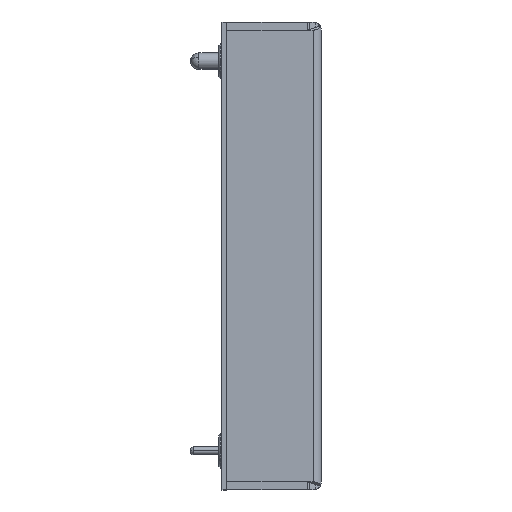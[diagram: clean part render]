
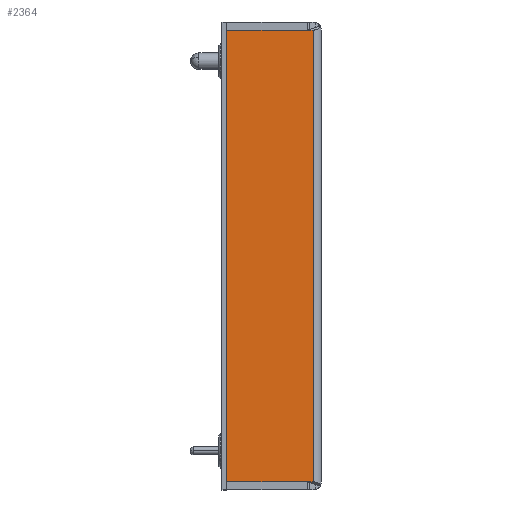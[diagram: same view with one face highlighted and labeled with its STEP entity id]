
A CAD part, left-side view. The second image highlights one B-rep face of the part: STEP entity #2364.
In plain terms, the highlighted planar face has unit normal (-1, 0, 0).
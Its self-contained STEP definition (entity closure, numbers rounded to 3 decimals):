
#926 = CARTESIAN_POINT ( 'NONE',  ( -30.5, 0.717, 27.95 ) ) ;
#1852 = ORIENTED_EDGE ( 'NONE', *, *, #4431, .F. ) ;
#2364 = ADVANCED_FACE ( 'NONE', ( #2541 ), #14672, .F. ) ;
#2541 = FACE_OUTER_BOUND ( 'NONE', #5390, .T. ) ;
#2573 = CARTESIAN_POINT ( 'NONE',  ( -30.5, 10.7, 27.95 ) ) ;
#4431 = EDGE_CURVE ( 'NONE', #10794, #35142, #5760, .T. ) ;
#4697 = EDGE_CURVE ( 'NONE', #10794, #30396, #22585, .T. ) ;
#5390 = EDGE_LOOP ( 'NONE', ( #7608, #13164, #34348, #6994, #1852, #13317 ) ) ;
#5409 = EDGE_CURVE ( 'NONE', #14761, #29683, #31650, .T. ) ;
#5760 = LINE ( 'NONE', #35374, #33408 ) ;
#6464 = DIRECTION ( 'NONE',  ( 1., 0., 0. ) ) ;
#6994 = ORIENTED_EDGE ( 'NONE', *, *, #26695, .F. ) ;
#7608 = ORIENTED_EDGE ( 'NONE', *, *, #19969, .T. ) ;
#8130 = DIRECTION ( 'NONE',  ( 0., -1., 0. ) ) ;
#8462 = CARTESIAN_POINT ( 'NONE',  ( -30.5, 0., 27.95 ) ) ;
#8769 = VECTOR ( 'NONE', #13278, 1000. ) ;
#9093 = VECTOR ( 'NONE', #23723, 1000. ) ;
#10665 = VECTOR ( 'NONE', #8130, 1000. ) ;
#10794 = VERTEX_POINT ( 'NONE', #13163 ) ;
#12152 = VECTOR ( 'NONE', #31947, 1000. ) ;
#13163 = CARTESIAN_POINT ( 'NONE',  ( -30.5, 10.7, 27.95 ) ) ;
#13164 = ORIENTED_EDGE ( 'NONE', *, *, #30294, .T. ) ;
#13278 = DIRECTION ( 'NONE',  ( 0., 0., -1. ) ) ;
#13317 = ORIENTED_EDGE ( 'NONE', *, *, #4697, .T. ) ;
#14672 = PLANE ( 'NONE',  #28438 ) ;
#14761 = VERTEX_POINT ( 'NONE', #8462 ) ;
#16069 = DIRECTION ( 'NONE',  ( 0., -1., 0. ) ) ;
#16481 = DIRECTION ( 'NONE',  ( 0., 0., -1. ) ) ;
#17970 = LINE ( 'NONE', #2573, #10665 ) ;
#18695 = CARTESIAN_POINT ( 'NONE',  ( -30.5, 10.7, -27.95 ) ) ;
#18779 = CARTESIAN_POINT ( 'NONE',  ( -30.5, 0., -27.95 ) ) ;
#19141 = CARTESIAN_POINT ( 'NONE',  ( -30.5, 10.7, 27.95 ) ) ;
#19969 = EDGE_CURVE ( 'NONE', #30396, #24265, #34153, .T. ) ;
#21358 = CARTESIAN_POINT ( 'NONE',  ( -30.5, 0., 27.95 ) ) ;
#21731 = VECTOR ( 'NONE', #16481, 1000. ) ;
#22585 = LINE ( 'NONE', #19141, #21731 ) ;
#22855 = LINE ( 'NONE', #26128, #9093 ) ;
#23723 = DIRECTION ( 'NONE',  ( 0., -1., 0. ) ) ;
#24265 = VERTEX_POINT ( 'NONE', #26880 ) ;
#25729 = DIRECTION ( 'NONE',  ( 0., 1., 0. ) ) ;
#26128 = CARTESIAN_POINT ( 'NONE',  ( -30.5, 10.7, -27.95 ) ) ;
#26695 = EDGE_CURVE ( 'NONE', #35142, #14761, #17970, .T. ) ;
#26880 = CARTESIAN_POINT ( 'NONE',  ( -30.5, 0.717, -27.95 ) ) ;
#28438 = AXIS2_PLACEMENT_3D ( 'NONE', #31191, #6464, #25729 ) ;
#29683 = VERTEX_POINT ( 'NONE', #18779 ) ;
#30294 = EDGE_CURVE ( 'NONE', #24265, #29683, #22855, .T. ) ;
#30396 = VERTEX_POINT ( 'NONE', #18695 ) ;
#31191 = CARTESIAN_POINT ( 'NONE',  ( -30.5, 10.7, 27.95 ) ) ;
#31650 = LINE ( 'NONE', #21358, #8769 ) ;
#31820 = CARTESIAN_POINT ( 'NONE',  ( -30.5, 10.7, -27.95 ) ) ;
#31947 = DIRECTION ( 'NONE',  ( 0., -1., 0. ) ) ;
#33408 = VECTOR ( 'NONE', #16069, 1000. ) ;
#34153 = LINE ( 'NONE', #31820, #12152 ) ;
#34348 = ORIENTED_EDGE ( 'NONE', *, *, #5409, .F. ) ;
#35142 = VERTEX_POINT ( 'NONE', #926 ) ;
#35374 = CARTESIAN_POINT ( 'NONE',  ( -30.5, 10.7, 27.95 ) ) ;
